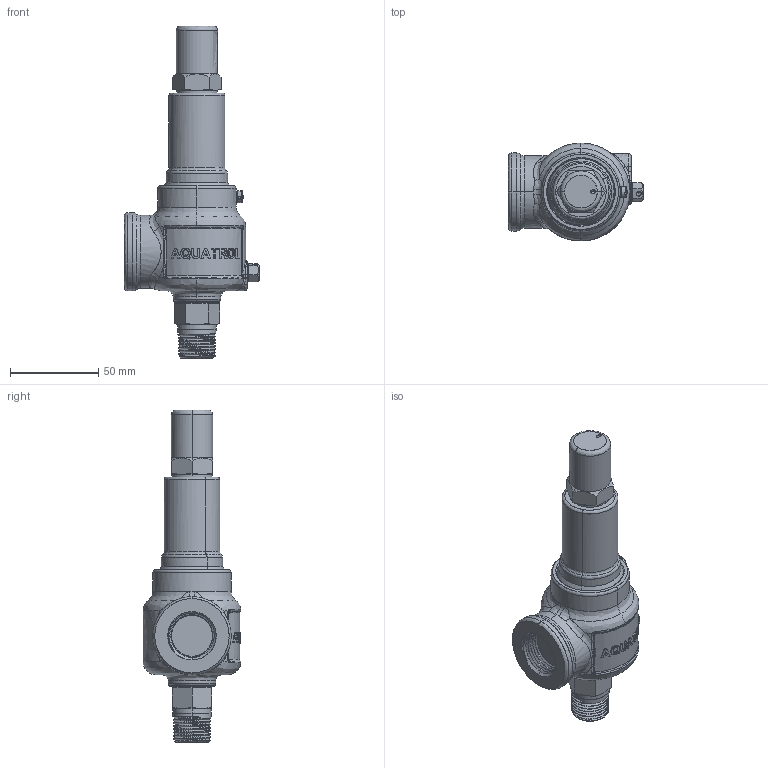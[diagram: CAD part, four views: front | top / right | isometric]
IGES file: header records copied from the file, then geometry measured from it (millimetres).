
Start section: SolidWorks IGES file using NURBS representation for surfaces
Global section: file name: C:\Design\Design\Aquatrol\Customer 3D Files\Series 740 Customer Files\D Orifice\Customer\Iges Files\Series 740 D 500 x 750 Closed Cap.IGS; native system: SolidWorks 2015; preprocessor: SolidWorks 2015; author: Karl; date: 150515.081421; units: inch
Bounding box: 76.94 x 55.56 x 188.56 mm (x, y, z)
Surface area: 29529.9 mm2 (no closed solid volume)
Topology: 0 solids, 0 shells, 366 faces, 6588 edges, 6588 vertices
Faces by surface type: bspline 366
